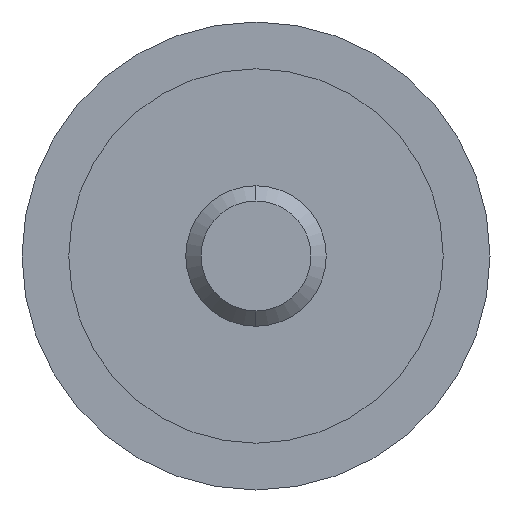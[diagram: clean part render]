
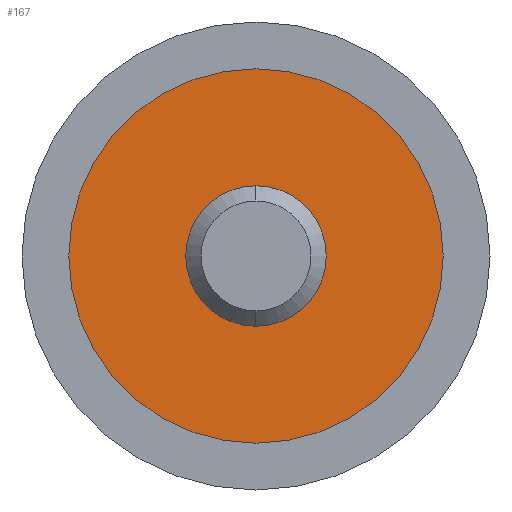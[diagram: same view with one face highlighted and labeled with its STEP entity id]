
A CAD part, left-side view. The second image highlights one B-rep face of the part: STEP entity #167.
In plain terms, the highlighted planar face has unit normal (-1, 0, 0).
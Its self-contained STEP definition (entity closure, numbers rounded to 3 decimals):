
#14 = EDGE_LOOP ( 'NONE', ( #424, #530 ) ) ;
#22 = DIRECTION ( 'NONE',  ( -1., 0., 0. ) ) ;
#34 = EDGE_LOOP ( 'NONE', ( #296, #276 ) ) ;
#45 = AXIS2_PLACEMENT_3D ( 'NONE', #345, #551, #457 ) ;
#53 = CARTESIAN_POINT ( 'NONE',  ( -9.99, 0., 0. ) ) ;
#63 = EDGE_CURVE ( 'NONE', #523, #535, #659, .T. ) ;
#81 = DIRECTION ( 'NONE',  ( 0., 0., 1. ) ) ;
#151 = CARTESIAN_POINT ( 'NONE',  ( -9.99, 0., 8. ) ) ;
#157 = DIRECTION ( 'NONE',  ( 0., 0., -1. ) ) ;
#159 = VERTEX_POINT ( 'NONE', #398 ) ;
#167 = ADVANCED_FACE ( 'NONE', ( #285, #237 ), #601, .F. ) ;
#212 = CARTESIAN_POINT ( 'NONE',  ( -9.99, 0., 3. ) ) ;
#221 = EDGE_CURVE ( 'NONE', #159, #622, #536, .T. ) ;
#228 = CIRCLE ( 'NONE', #331, 8. ) ;
#231 = CARTESIAN_POINT ( 'NONE',  ( -9.99, 0., -8. ) ) ;
#237 = FACE_BOUND ( 'NONE', #34, .T. ) ;
#257 = DIRECTION ( 'NONE',  ( -1., 0., 0. ) ) ;
#276 = ORIENTED_EDGE ( 'NONE', *, *, #221, .F. ) ;
#285 = FACE_OUTER_BOUND ( 'NONE', #14, .T. ) ;
#296 = ORIENTED_EDGE ( 'NONE', *, *, #674, .F. ) ;
#298 = DIRECTION ( 'NONE',  ( 0., 0., -1. ) ) ;
#331 = AXIS2_PLACEMENT_3D ( 'NONE', #519, #257, #521 ) ;
#345 = CARTESIAN_POINT ( 'NONE',  ( -9.99, 8., 0. ) ) ;
#369 = DIRECTION ( 'NONE',  ( -1., 0., 0. ) ) ;
#398 = CARTESIAN_POINT ( 'NONE',  ( -9.99, 0., -3. ) ) ;
#424 = ORIENTED_EDGE ( 'NONE', *, *, #558, .T. ) ;
#457 = DIRECTION ( 'NONE',  ( 0., 0., -1. ) ) ;
#500 = CARTESIAN_POINT ( 'NONE',  ( -9.99, 0., 0. ) ) ;
#519 = CARTESIAN_POINT ( 'NONE',  ( -9.99, 0., 0. ) ) ;
#521 = DIRECTION ( 'NONE',  ( 0., 0., 1. ) ) ;
#523 = VERTEX_POINT ( 'NONE', #231 ) ;
#526 = CIRCLE ( 'NONE', #538, 3. ) ;
#530 = ORIENTED_EDGE ( 'NONE', *, *, #63, .T. ) ;
#535 = VERTEX_POINT ( 'NONE', #151 ) ;
#536 = CIRCLE ( 'NONE', #615, 3. ) ;
#538 = AXIS2_PLACEMENT_3D ( 'NONE', #53, #623, #157 ) ;
#551 = DIRECTION ( 'NONE',  ( 1., 0., 0. ) ) ;
#558 = EDGE_CURVE ( 'NONE', #535, #523, #228, .T. ) ;
#601 = PLANE ( 'NONE',  #45 ) ;
#607 = AXIS2_PLACEMENT_3D ( 'NONE', #500, #22, #81 ) ;
#614 = CARTESIAN_POINT ( 'NONE',  ( -9.99, 0., 0. ) ) ;
#615 = AXIS2_PLACEMENT_3D ( 'NONE', #614, #369, #298 ) ;
#622 = VERTEX_POINT ( 'NONE', #212 ) ;
#623 = DIRECTION ( 'NONE',  ( -1., 0., 0. ) ) ;
#659 = CIRCLE ( 'NONE', #607, 8. ) ;
#674 = EDGE_CURVE ( 'NONE', #622, #159, #526, .T. ) ;
